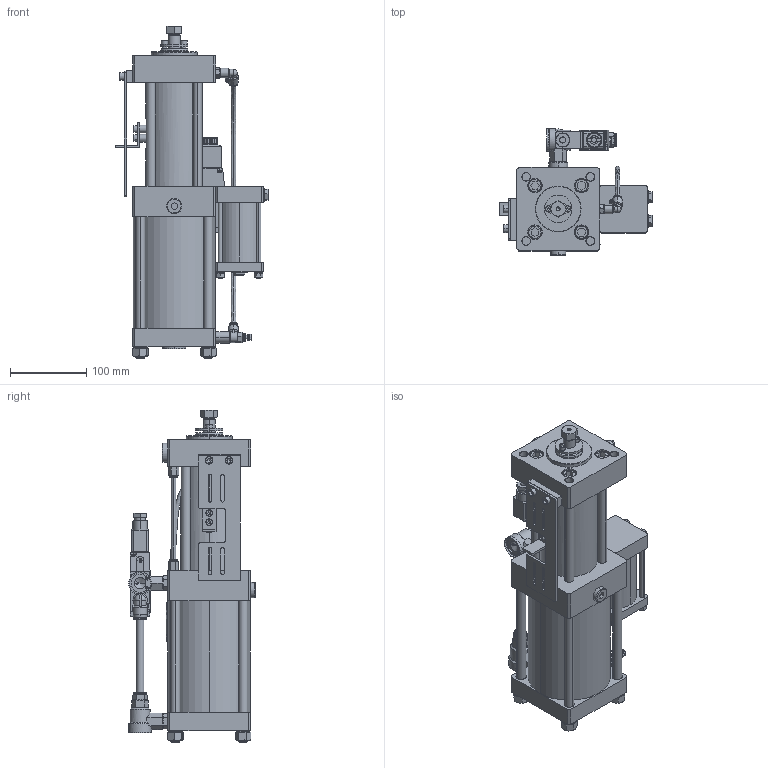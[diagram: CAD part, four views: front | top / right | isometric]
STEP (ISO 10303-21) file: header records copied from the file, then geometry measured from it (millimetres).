
FILE_DESCRIPTION (( 'STEP AP203' ), '1' );
FILE_NAME ('PCT3 10036 VC13.STEP', '2017-12-05T06:32:37', ( '' ), ( '' ), 'SwSTEP 2.0', 'SolidWorks 2015', '' );
FILE_SCHEMA (( 'CONFIG_CONTROL_DESIGN' ));
Length unit declared in the file: millimetre
Products named in the file (39): socket head cap screw_is_IS 2269 - M5 x 8-N; Part3^PCT; Janatics-Male elbow_Collet cap_DIA 10; Janatics-Male connector_housing MC_WP2110650; 3 8 BSP PLUG; socket head cap screw_is_IS 2269 - M6 x 10-N; Part4^PCT; Janatics-Male elbow_Male threaded nipple_Dia 10 x 14; Janatics-Male connector_Collet cap_DIA 6; SILENCER; INT REC; spring lock washer 6735_is_IS 6735- 12; Janatics-Male elbow_Male elbow; 1 8 BSP PU 6_Janatics-Male connector_Male connector; CONTAINER PRA-03; GASKET; hexagon nut style 1_is_IS 1364-3 - M12-W-N; Part1^PCT; Part2^PCT; plain washer (type a)_is_IS 2016 A- 9; INT TUBE; PCT3 10036 VC13; 18Janatics-Male elbow_Male threaded nipple_Dia 6 x 18; Janatics-WN015152WN015152_WN015152; hexagon fit bolt_is_IS 3640 - M8 x 25 x 14.5-N; INT FEC; 18Janatics-Male elbow_elbow_DIA 6; Janatics-WN015151WN015151_WN015151; QEV; INT TR; 18Janatics-Male elbow_Collet cap_DIA 6; DC VALVE-Janatics-DEFAULT_DS255SR61; (normal) internal_is_IS 3075(Part2) NI- 26; spring lock washer 6735_is_IS 6735- 6; PCT CYL_PCT3 10036 VC13; 1 8 BSP FCV-Janatics-GR2_GR1105006; Janatics-Male elbow_elbow_DIA 10; 1 4 BSP QEV; hexagon nut_is_IS 1363-2 - M6-N
Assembly tree (69 placements, depth 3):
  Part3^PCT
  PCT3 10036 VC13
    PCT CYL_PCT3 10036 VC13
    socket head cap screw_is_IS 2269 - M5 x 8-N  x4
    socket head cap screw_is_IS 2269 - M6 x 10-N  x2
    CONTAINER PRA-03
      INT REC
      GASKET  x2
      INT TUBE
      INT FEC
      INT TR  x4
      spring lock washer 6735_is_IS 6735- 6  x4
      hexagon nut_is_IS 1363-2 - M6-N  x4
      3 8 BSP PLUG
      SILENCER
    plain washer (type a)_is_IS 2016 A- 9  x2
    hexagon fit bolt_is_IS 3640 - M8 x 25 x 14.5-N  x2
    1 4 BSP QEV
      QEV
      (normal) internal_is_IS 3075(Part2) NI- 26
    QEV
    1 8 BSP PU 6_Janatics-Male connector_Male connector  x2
      Janatics-Male connector_housing MC_WP2110650
      Janatics-Male connector_Collet cap_DIA 6
    Part2^PCT
    Janatics-WN015152WN015152_WN015152  x2
    Janatics-WN015151WN015151_WN015151
    DC VALVE-Janatics-DEFAULT_DS255SR61
    (normal) internal_is_IS 3075(Part2) NI- 26
    Janatics-Male elbow_Male elbow
      Janatics-Male elbow_elbow_DIA 10
      Janatics-Male elbow_Collet cap_DIA 10
      Janatics-Male elbow_Male threaded nipple_Dia 10 x 14
    Janatics-Male elbow_Collet cap_DIA 10  x2
    Janatics-Male elbow_Male threaded nipple_Dia 10 x 14  x2
    Part1^PCT
    SILENCER  x2
    18Janatics-Male elbow_Male threaded nipple_Dia 6 x 18
    18Janatics-Male elbow_elbow_DIA 6
    18Janatics-Male elbow_Collet cap_DIA 6
    1 8 BSP FCV-Janatics-GR2_GR1105006
    Part4^PCT
    spring lock washer 6735_is_IS 6735- 12  x4
    hexagon nut style 1_is_IS 1364-3 - M12-W-N  x4
Bounding box: 200.6 x 166 x 435 mm (x, y, z)
Volume: 3634182.8 mm3; surface area: 524756.7 mm2
Topology: 87 solids, 88 shells, 4351 faces, 10952 edges, 6921 vertices
Faces by surface type: plane 1938, cylinder 1350, cone 726, torus 177, bspline 145, sphere 15
Entity records: 107516 total; most frequent: CARTESIAN_POINT 25713, ORIENTED_EDGE 16112, DIRECTION 15997, EDGE_CURVE 8056, AXIS2_PLACEMENT_3D 5848, VERTEX_POINT 5150, LINE 4301, VECTOR 4301
